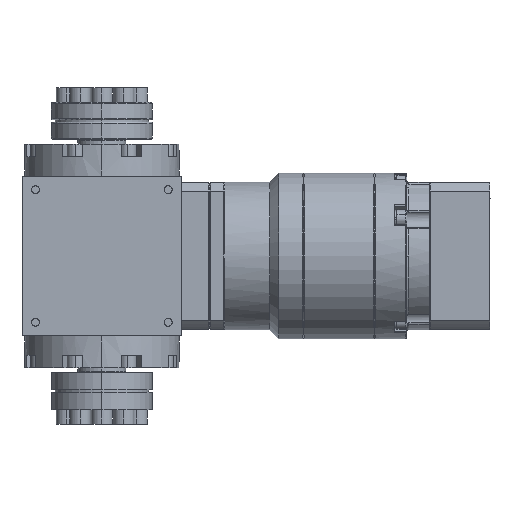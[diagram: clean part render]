
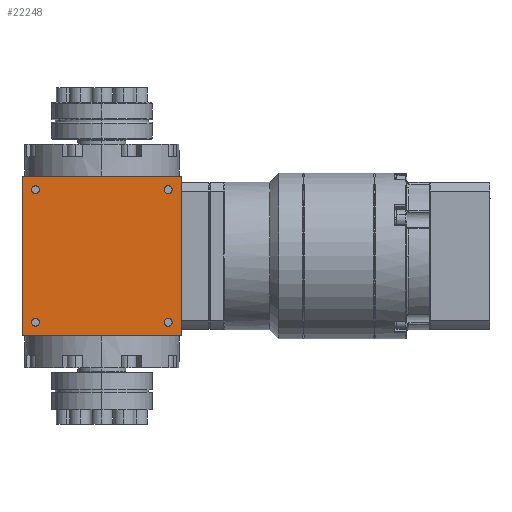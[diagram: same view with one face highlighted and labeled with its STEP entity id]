
A CAD part, left-side view. The second image highlights one B-rep face of the part: STEP entity #22248.
In plain terms, the highlighted planar face has unit normal (-1, 0, 0).
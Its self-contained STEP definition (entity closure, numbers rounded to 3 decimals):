
#506 = EDGE_CURVE ( 'NONE', #48921, #46307, #40075, .T. ) ;
#533 = LINE ( 'NONE', #12809, #35131 ) ;
#763 = EDGE_LOOP ( 'NONE', ( #17687, #13261 ) ) ;
#1085 = ORIENTED_EDGE ( 'NONE', *, *, #5964, .T. ) ;
#1118 = CARTESIAN_POINT ( 'NONE',  ( -32.5, 0., 32.5 ) ) ;
#2996 = ORIENTED_EDGE ( 'NONE', *, *, #26397, .T. ) ;
#3244 = ORIENTED_EDGE ( 'NONE', *, *, #4362, .F. ) ;
#3416 = CARTESIAN_POINT ( 'NONE',  ( -32.5, -32.5, 32.5 ) ) ;
#4119 = DIRECTION ( 'NONE',  ( 0., 0., 1. ) ) ;
#4248 = ORIENTED_EDGE ( 'NONE', *, *, #30256, .T. ) ;
#4340 = CARTESIAN_POINT ( 'NONE',  ( -32.5, -27., -25.4 ) ) ;
#4362 = EDGE_CURVE ( 'NONE', #37126, #8525, #16384, .T. ) ;
#5411 = CARTESIAN_POINT ( 'NONE',  ( -32.5, 27., 28.6 ) ) ;
#5630 = EDGE_LOOP ( 'NONE', ( #16813, #4248 ) ) ;
#5675 = AXIS2_PLACEMENT_3D ( 'NONE', #41649, #30649, #4119 ) ;
#5964 = EDGE_CURVE ( 'NONE', #35269, #7898, #23527, .T. ) ;
#6276 = CARTESIAN_POINT ( 'NONE',  ( -32.5, -27., -28.6 ) ) ;
#6681 = EDGE_LOOP ( 'NONE', ( #34254, #47722, #11680, #3244 ) ) ;
#7440 = AXIS2_PLACEMENT_3D ( 'NONE', #35655, #13156, #27646 ) ;
#7898 = VERTEX_POINT ( 'NONE', #25022 ) ;
#8525 = VERTEX_POINT ( 'NONE', #3416 ) ;
#8901 = FACE_BOUND ( 'NONE', #19818, .T. ) ;
#9617 = CARTESIAN_POINT ( 'NONE',  ( -32.5, 32.5, -32.5 ) ) ;
#10157 = EDGE_CURVE ( 'NONE', #46307, #48921, #37634, .T. ) ;
#10321 = CARTESIAN_POINT ( 'NONE',  ( -32.5, -27., 28.6 ) ) ;
#10880 = DIRECTION ( 'NONE',  ( 0., 0., 1. ) ) ;
#11634 = CARTESIAN_POINT ( 'NONE',  ( -32.5, -27., -27. ) ) ;
#11680 = ORIENTED_EDGE ( 'NONE', *, *, #42713, .T. ) ;
#12422 = FACE_BOUND ( 'NONE', #5630, .T. ) ;
#12809 = CARTESIAN_POINT ( 'NONE',  ( -32.5, -32.5, -32.5 ) ) ;
#12844 = DIRECTION ( 'NONE',  ( 0., 0., 1. ) ) ;
#13156 = DIRECTION ( 'NONE',  ( -1., 0., 0. ) ) ;
#13261 = ORIENTED_EDGE ( 'NONE', *, *, #506, .T. ) ;
#14722 = DIRECTION ( 'NONE',  ( 0., 0., 1. ) ) ;
#15566 = AXIS2_PLACEMENT_3D ( 'NONE', #48994, #48750, #14722 ) ;
#16384 = LINE ( 'NONE', #1118, #25196 ) ;
#16810 = DIRECTION ( 'NONE',  ( 1., 0., 0. ) ) ;
#16813 = ORIENTED_EDGE ( 'NONE', *, *, #23324, .T. ) ;
#16868 = DIRECTION ( 'NONE',  ( 0., -1., 0. ) ) ;
#17687 = ORIENTED_EDGE ( 'NONE', *, *, #10157, .T. ) ;
#17945 = CIRCLE ( 'NONE', #15566, 1.6 ) ;
#18484 = AXIS2_PLACEMENT_3D ( 'NONE', #37286, #19755, #19514 ) ;
#19514 = DIRECTION ( 'NONE',  ( 0., 0., 1. ) ) ;
#19594 = EDGE_LOOP ( 'NONE', ( #1085, #46758 ) ) ;
#19640 = CIRCLE ( 'NONE', #43622, 1.6 ) ;
#19755 = DIRECTION ( 'NONE',  ( 1., 0., 0. ) ) ;
#19818 = EDGE_LOOP ( 'NONE', ( #2996, #22341 ) ) ;
#20682 = CIRCLE ( 'NONE', #39876, 1.6 ) ;
#21695 = CARTESIAN_POINT ( 'NONE',  ( -32.5, -27., -27. ) ) ;
#22248 = ADVANCED_FACE ( 'NONE', ( #24629, #43410, #39897, #8901, #12422 ), #47428, .T. ) ;
#22341 = ORIENTED_EDGE ( 'NONE', *, *, #43433, .T. ) ;
#22481 = EDGE_CURVE ( 'NONE', #48639, #37126, #40394, .T. ) ;
#22722 = VERTEX_POINT ( 'NONE', #38614 ) ;
#23207 = CARTESIAN_POINT ( 'NONE',  ( -32.5, 27., 27. ) ) ;
#23324 = EDGE_CURVE ( 'NONE', #22722, #47282, #17945, .T. ) ;
#23527 = CIRCLE ( 'NONE', #29931, 1.6 ) ;
#23533 = CARTESIAN_POINT ( 'NONE',  ( -32.5, -27., 25.4 ) ) ;
#24275 = VECTOR ( 'NONE', #32385, 1000. ) ;
#24567 = CARTESIAN_POINT ( 'NONE',  ( -32.5, 0., -32.5 ) ) ;
#24629 = FACE_OUTER_BOUND ( 'NONE', #6681, .T. ) ;
#25011 = CIRCLE ( 'NONE', #39393, 1.6 ) ;
#25022 = CARTESIAN_POINT ( 'NONE',  ( -32.5, 27., 25.4 ) ) ;
#25196 = VECTOR ( 'NONE', #16868, 1000. ) ;
#26397 = EDGE_CURVE ( 'NONE', #37807, #31897, #19640, .T. ) ;
#27415 = VECTOR ( 'NONE', #48087, 1000. ) ;
#27646 = DIRECTION ( 'NONE',  ( 0., -1., 0. ) ) ;
#29931 = AXIS2_PLACEMENT_3D ( 'NONE', #47100, #16810, #12844 ) ;
#30256 = EDGE_CURVE ( 'NONE', #47282, #22722, #42351, .T. ) ;
#30649 = DIRECTION ( 'NONE',  ( 1., 0., 0. ) ) ;
#31897 = VERTEX_POINT ( 'NONE', #6276 ) ;
#31978 = DIRECTION ( 'NONE',  ( 1., 0., 0. ) ) ;
#32127 = DIRECTION ( 'NONE',  ( 1., 0., 0. ) ) ;
#32385 = DIRECTION ( 'NONE',  ( 0., 0., 1. ) ) ;
#34115 = CARTESIAN_POINT ( 'NONE',  ( -32.5, -32.5, -32.5 ) ) ;
#34254 = ORIENTED_EDGE ( 'NONE', *, *, #22481, .F. ) ;
#34478 = DIRECTION ( 'NONE',  ( 0., 0., 1. ) ) ;
#35131 = VECTOR ( 'NONE', #43552, 1000. ) ;
#35269 = VERTEX_POINT ( 'NONE', #5411 ) ;
#35655 = CARTESIAN_POINT ( 'NONE',  ( -32.5, 32.5, -32.5 ) ) ;
#36738 = AXIS2_PLACEMENT_3D ( 'NONE', #39639, #32127, #47410 ) ;
#36829 = EDGE_CURVE ( 'NONE', #48639, #49498, #40574, .T. ) ;
#36934 = EDGE_CURVE ( 'NONE', #7898, #35269, #25011, .T. ) ;
#37126 = VERTEX_POINT ( 'NONE', #47728 ) ;
#37286 = CARTESIAN_POINT ( 'NONE',  ( -32.5, -27., 27. ) ) ;
#37634 = CIRCLE ( 'NONE', #5675, 1.6 ) ;
#37807 = VERTEX_POINT ( 'NONE', #4340 ) ;
#38382 = DIRECTION ( 'NONE',  ( 1., 0., 0. ) ) ;
#38489 = DIRECTION ( 'NONE',  ( 1., 0., 0. ) ) ;
#38614 = CARTESIAN_POINT ( 'NONE',  ( -32.5, 27., -25.4 ) ) ;
#39393 = AXIS2_PLACEMENT_3D ( 'NONE', #23207, #38489, #34478 ) ;
#39639 = CARTESIAN_POINT ( 'NONE',  ( -32.5, 27., -27. ) ) ;
#39836 = CARTESIAN_POINT ( 'NONE',  ( -32.5, 32.5, -32.5 ) ) ;
#39876 = AXIS2_PLACEMENT_3D ( 'NONE', #21695, #31978, #47263 ) ;
#39897 = FACE_BOUND ( 'NONE', #763, .T. ) ;
#40075 = CIRCLE ( 'NONE', #18484, 1.6 ) ;
#40394 = LINE ( 'NONE', #9617, #24275 ) ;
#40574 = LINE ( 'NONE', #24567, #27415 ) ;
#41649 = CARTESIAN_POINT ( 'NONE',  ( -32.5, -27., 27. ) ) ;
#42351 = CIRCLE ( 'NONE', #36738, 1.6 ) ;
#42713 = EDGE_CURVE ( 'NONE', #49498, #8525, #533, .T. ) ;
#43410 = FACE_BOUND ( 'NONE', #19594, .T. ) ;
#43433 = EDGE_CURVE ( 'NONE', #31897, #37807, #20682, .T. ) ;
#43552 = DIRECTION ( 'NONE',  ( 0., 0., 1. ) ) ;
#43622 = AXIS2_PLACEMENT_3D ( 'NONE', #11634, #38382, #10880 ) ;
#46307 = VERTEX_POINT ( 'NONE', #10321 ) ;
#46758 = ORIENTED_EDGE ( 'NONE', *, *, #36934, .T. ) ;
#47100 = CARTESIAN_POINT ( 'NONE',  ( -32.5, 27., 27. ) ) ;
#47263 = DIRECTION ( 'NONE',  ( 0., 0., 1. ) ) ;
#47282 = VERTEX_POINT ( 'NONE', #47996 ) ;
#47410 = DIRECTION ( 'NONE',  ( 0., 0., 1. ) ) ;
#47428 = PLANE ( 'NONE',  #7440 ) ;
#47722 = ORIENTED_EDGE ( 'NONE', *, *, #36829, .T. ) ;
#47728 = CARTESIAN_POINT ( 'NONE',  ( -32.5, 32.5, 32.5 ) ) ;
#47996 = CARTESIAN_POINT ( 'NONE',  ( -32.5, 27., -28.6 ) ) ;
#48087 = DIRECTION ( 'NONE',  ( 0., -1., 0. ) ) ;
#48639 = VERTEX_POINT ( 'NONE', #39836 ) ;
#48750 = DIRECTION ( 'NONE',  ( 1., 0., 0. ) ) ;
#48921 = VERTEX_POINT ( 'NONE', #23533 ) ;
#48994 = CARTESIAN_POINT ( 'NONE',  ( -32.5, 27., -27. ) ) ;
#49498 = VERTEX_POINT ( 'NONE', #34115 ) ;
